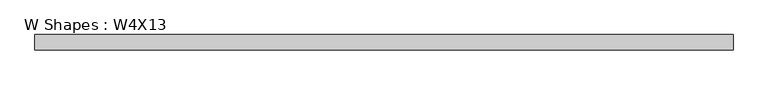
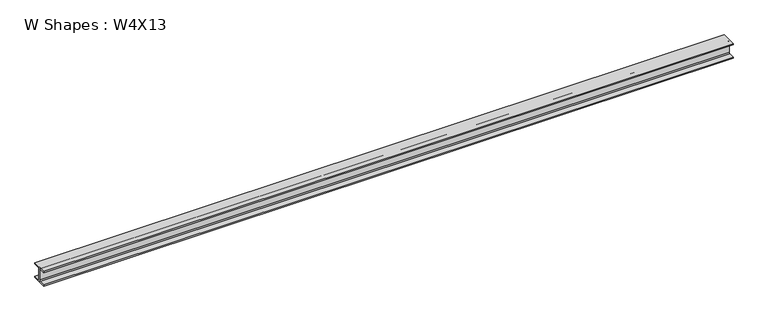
"""IFC4 building model written with IfcOpenShell, lengths in millimetres: beam geometry, W Shapes : W4X13."""

import ifcopenshell
import ifcopenshell.guid

model = None  # the IFC model being written
_history = None  # IfcOwnerHistory: only IFC2X3 demands one
_inside = {}  # id of a spatial element -> (the spatial element, [elements in it])
_under = {}  # id of a project, library or spatial element -> (it, [spatial elements below it])
_declared = {}  # id of a project -> (the project, [libraries it declares])
_typed = {}  # id of a type object -> (the type object, [elements of that type])
_made_of = {}  # id of a material, layer set ... -> (it, [elements and type objects made of it])


def new_model(schema):
    """Start an empty IFC model of exactly this schema.

    Asked for "IFC4X3", IfcOpenShell would pick the latest addendum, in which some entities
    have other attributes; the version numbers below select the first issue.
    IFC2X3 requires an IfcOwnerHistory on every rooted entity: one is made here for all.
    """
    global model, _history
    if schema == "IFC4X3":
        model = ifcopenshell.file(schema_version=(4, 3, 0, 0))
    else:
        model = ifcopenshell.file(schema=schema)
    _inside.clear()
    _under.clear()
    _declared.clear()
    _typed.clear()
    _made_of.clear()
    _history = None
    if model.schema == "IFC2X3":
        org = make("IfcOrganization", Name="unknown")
        user = make(
            "IfcPersonAndOrganization",
            ThePerson=make("IfcPerson", FamilyName="unknown"),
            TheOrganization=org,
        )
        app = make(
            "IfcApplication",
            ApplicationDeveloper=org,
            Version="unknown",
            ApplicationFullName="unknown",
            ApplicationIdentifier="unknown",
        )
        _history = make(
            "IfcOwnerHistory",
            OwningUser=user,
            OwningApplication=app,
            ChangeAction="ADDED",
            CreationDate=0,
        )
    return model


def make(cls, **values):
    """One entity of the class cls with the attributes given. An attribute that is None is left unset."""
    return model.create_entity(
        cls, **{name: value for name, value in values.items() if value is not None}
    )


def rooted(cls, **values):
    """An entity with a GlobalId (a new one), such as an element, a storey or a relation."""
    return make(cls, GlobalId=ifcopenshell.guid.new(), OwnerHistory=_history, **values)


def si_unit(unit_type, name, prefix=None):
    """IfcSIUnit, for example si_unit("LENGTHUNIT", "METRE", prefix="MILLI")."""
    return make("IfcSIUnit", UnitType=unit_type, Prefix=prefix, Name=name)


def assignment(units):
    """IfcUnitAssignment: the units of a project."""
    return None if units is None else make("IfcUnitAssignment", Units=units)


def point(xyz):
    """IfcCartesianPoint."""
    return None if xyz is None else make("IfcCartesianPoint", Coordinates=xyz)


def direction(xyz):
    """IfcDirection."""
    return None if xyz is None else make("IfcDirection", DirectionRatios=xyz)


def frame(location, z_axis=None, x_axis=None):
    """IfcAxis2Placement3D, a coordinate frame: its origin and axes. An axis left out is left unset."""
    return make(
        "IfcAxis2Placement3D",
        Location=point(location),
        Axis=direction(z_axis),
        RefDirection=direction(x_axis),
    )


def frame_2d(location, x_axis=None):
    """IfcAxis2Placement2D, a coordinate frame in the plane: its origin and x axis."""
    return make(
        "IfcAxis2Placement2D", Location=point(location), RefDirection=direction(x_axis)
    )


def origin():
    """The frame at (0, 0, 0) with its axes left unset."""
    return frame((0.0, 0.0, 0.0))


def place(relative_to, where):
    """IfcLocalPlacement: puts the frame where relative to a parent placement (None: the world)."""
    return make(
        "IfcLocalPlacement", PlacementRelTo=relative_to, RelativePlacement=where
    )


def context(
    kind, dimensions, precision=None, world=None, true_north=None, identifier=None
):
    """IfcGeometricRepresentationContext, for example the 3D "Model" context."""
    return make(
        "IfcGeometricRepresentationContext",
        ContextIdentifier=identifier,
        ContextType=kind,
        CoordinateSpaceDimension=dimensions,
        Precision=precision,
        WorldCoordinateSystem=world,
        TrueNorth=true_north,
    )


def project(units=None, contexts=None):
    """IfcProject with its units and contexts."""
    return rooted(
        "IfcProject",
        Name="project",
        RepresentationContexts=contexts,
        UnitsInContext=assignment(units),
    )


def spatial(cls, under=None, at=None, **own):
    """A site, building, storey or space (cls), placed at a placement, below another one or the project."""
    s = rooted(cls, ObjectPlacement=at, **own)
    if under is not None:
        _under.setdefault(under.id(), (under, []))[1].append(s)
    return s


def polyline(points):
    """IfcPolyline through the points."""
    return make("IfcPolyline", Points=[point(p) for p in points])


def circle_curve(where, radius):
    """IfcCircle in the frame where."""
    return make("IfcCircle", Position=where, Radius=radius)


def trimmed(basis, trim1, trim2, sense, master):
    """IfcTrimmedCurve: the piece of a basis curve between two trims."""
    return make(
        "IfcTrimmedCurve",
        BasisCurve=basis,
        Trim1=trim1,
        Trim2=trim2,
        SenseAgreement=sense,
        MasterRepresentation=master,
    )


def segment(curve, same_sense, transition):
    """IfcCompositeCurveSegment."""
    return make(
        "IfcCompositeCurveSegment",
        Transition=transition,
        SameSense=same_sense,
        ParentCurve=curve,
    )


def composite_curve(segments, self_intersect=None):
    """IfcCompositeCurve: segments joined end to end."""
    return make("IfcCompositeCurve", Segments=segments, SelfIntersect=self_intersect)


def outline(outer, holes=None, kind="AREA"):
    """IfcArbitraryClosedProfileDef: a profile drawn as a closed curve; with holes, ...WithVoids."""
    if holes is None:
        return make("IfcArbitraryClosedProfileDef", ProfileType=kind, OuterCurve=outer)
    return make(
        "IfcArbitraryProfileDefWithVoids",
        ProfileType=kind,
        OuterCurve=outer,
        InnerCurves=holes,
    )


def extrude(swept, where, along, depth):
    """IfcExtrudedAreaSolid: the profile swept, set in the frame where, extruded along a direction by depth."""
    return make(
        "IfcExtrudedAreaSolid",
        SweptArea=swept,
        Position=where,
        ExtrudedDirection=direction(along),
        Depth=depth,
    )


def shape(context_of_items, identifier, shape_type, items):
    """IfcShapeRepresentation: the items that make up one representation, for example the "Body"."""
    return make(
        "IfcShapeRepresentation",
        ContextOfItems=context_of_items,
        RepresentationIdentifier=identifier,
        RepresentationType=shape_type,
        Items=items,
    )


def source(mapping_origin, context_of_items, identifier, shape_type, items):
    """IfcRepresentationMap: a shape defined once, which mapped items show again and again."""
    return make(
        "IfcRepresentationMap",
        MappingOrigin=mapping_origin,
        MappedRepresentation=shape(context_of_items, identifier, shape_type, items),
    )


def transform(
    local_origin,
    x_axis=None,
    y_axis=None,
    z_axis=None,
    scale=None,
    scale2=None,
    scale3=None,
    uniform=True,
):
    """IfcCartesianTransformationOperator3D, or its non-uniform kind. x_axis, y_axis, z_axis: its Axis1, 2, 3."""
    if uniform:
        return make(
            "IfcCartesianTransformationOperator3D",
            Axis1=direction(x_axis),
            Axis2=direction(y_axis),
            LocalOrigin=point(local_origin),
            Scale=scale,
            Axis3=direction(z_axis),
        )
    return make(
        "IfcCartesianTransformationOperator3DnonUniform",
        Axis1=direction(x_axis),
        Axis2=direction(y_axis),
        LocalOrigin=point(local_origin),
        Scale=scale,
        Axis3=direction(z_axis),
        Scale2=scale2,
        Scale3=scale3,
    )


def mapped(mapping_source, mapping_target):
    """IfcMappedItem: shows the shape of a source again, moved by a transform."""
    return make(
        "IfcMappedItem", MappingSource=mapping_source, MappingTarget=mapping_target
    )


def made_of(thing, what):
    """Note that an element or type object is made of a material, layer set ...; save() writes the relation."""
    if what is not None:
        _made_of.setdefault(what.id(), (what, []))[1].append(thing)
    return thing


def element(
    cls,
    number,
    at=None,
    inside=None,
    cuts=None,
    type_object=None,
    material=None,
    context=None,
    identifier="Body",
    shape_type=None,
    held_by="IfcProductDefinitionShape",
    body=None,
    shapes=None,
    **own,
):
    """One element of the class cls, such as IfcWall. Its Tag is "e" and its number.

    at: its placement. inside: the storey or other place that contains it. cuts: it is an
    opening in that element (IfcRelVoidsElement). A single representation is given by context,
    identifier, shape_type and body (its items); several are given by shapes. held_by: the class
    of the entity that holds the representations. save() writes the other relations.
    """
    e = rooted(cls, Tag="e%d" % number, ObjectPlacement=at, **own)
    if body is not None:
        shapes = [shape(context, identifier, shape_type, body)]
    if shapes is not None:
        e.Representation = make(held_by, Representations=shapes)
    if inside is not None:
        _inside.setdefault(inside.id(), (inside, []))[1].append(e)
    if cuts is not None:
        rooted(
            "IfcRelVoidsElement", RelatingBuildingElement=cuts, RelatedOpeningElement=e
        )
    if type_object is not None:
        _typed.setdefault(type_object.id(), (type_object, []))[1].append(e)
    return made_of(e, material)


def aggregate(whole, parts):
    """IfcRelAggregates: a whole, such as a stair, and the parts it consists of."""
    return rooted("IfcRelAggregates", RelatingObject=whole, RelatedObjects=parts)


def save(model, path):
    """Write the relations noted so far, then the file.

    IfcRelAggregates (storeys below a building ...), IfcRelContainedInSpatialStructure (elements
    in a storey), IfcRelDefinesByType, IfcRelAssociatesMaterial and IfcRelDeclares: one each for
    every whole, place, type object, material and project.
    """
    for whole, parts in _under.values():
        aggregate(whole, parts)
    for where, things in _inside.values():
        rooted(
            "IfcRelContainedInSpatialStructure",
            RelatedElements=things,
            RelatingStructure=where,
        )
    for kind, things in _typed.values():
        rooted("IfcRelDefinesByType", RelatedObjects=things, RelatingType=kind)
    for what, things in _made_of.values():
        rooted("IfcRelAssociatesMaterial", RelatedObjects=things, RelatingMaterial=what)
    for by, libraries in _declared.values():
        rooted("IfcRelDeclares", RelatingContext=by, RelatedDefinitions=libraries)
    model.write(path)


def w_shapes_w4x13_24e16d4c(model_context):
    return source(origin(), model_context, "Body", "SweptSolid", [
        extrude(outline(composite_curve([segment(polyline([(51.562, -44.069), (51.562, -52.832), (-51.562, -52.832), (-51.562, -44.069), (-9.906, -44.069)]), True, "CONTINUOUS"), segment(trimmed(circle_curve(frame_2d((-9.906, -37.719)), 6.35), [point((-9.906, -44.069))], [point((-3.556, -37.719))], True, "CARTESIAN"), True, "CONTINUOUS"), segment(polyline([(-3.556, -37.719), (-3.556, 37.719)]), True, "CONTINUOUS"), segment(trimmed(circle_curve(frame_2d((-9.906, 37.719)), 6.35), [point((-3.556, 37.719))], [point((-9.906, 44.069))], True, "CARTESIAN"), True, "CONTINUOUS"), segment(polyline([(-9.906, 44.069), (-51.562, 44.069), (-51.562, 52.832), (51.562, 52.832), (51.562, 44.069), (9.906, 44.069)]), True, "CONTINUOUS"), segment(trimmed(circle_curve(frame_2d((9.906, 37.719)), 6.35), [point((9.906, 44.069))], [point((3.556, 37.719))], True, "CARTESIAN"), True, "CONTINUOUS"), segment(polyline([(3.556, 37.719), (3.556, -37.719)]), True, "CONTINUOUS"), segment(trimmed(circle_curve(frame_2d((9.906, -37.719)), 6.35), [point((3.556, -37.719))], [point((9.906, -44.069))], True, "CARTESIAN"), True, "CONTINUOUS"), segment(polyline([(9.906, -44.069), (51.562, -44.069)]), True, "CONTINUOUS")], self_intersect=False)), frame((-2349.373, 0.0, 0.0), z_axis=(1.0, 0.0, 0.0), x_axis=(0.0, 1.0, 0.0)), (0.0, 0.0, 1.0), 4698.746),
    ])


if __name__ == "__main__":
    model = new_model("IFC4")
    model_context = context("Model", 3, world=origin())
    ifc_project = project(units=[si_unit("LENGTHUNIT", "METRE", prefix="MILLI")], contexts=[model_context])
    site = spatial("IfcSite", under=ifc_project)
    building = spatial("IfcBuilding", under=site)
    placement = place(None, origin())
    w_shapes_w4x13_shape = w_shapes_w4x13_24e16d4c(model_context)
    element("IfcBeam", 1, ObjectType="W Shapes : W4X13", at=placement, inside=building, context=model_context, shape_type="MappedRepresentation", body=[
        mapped(w_shapes_w4x13_shape, transform((0.0, 0.0, 0.0), x_axis=(1.0, 0.0, 0.0), y_axis=(0.0, 1.0, 0.0), z_axis=(0.0, 0.0, 1.0))),
    ])
    save(model, "model.ifc")
